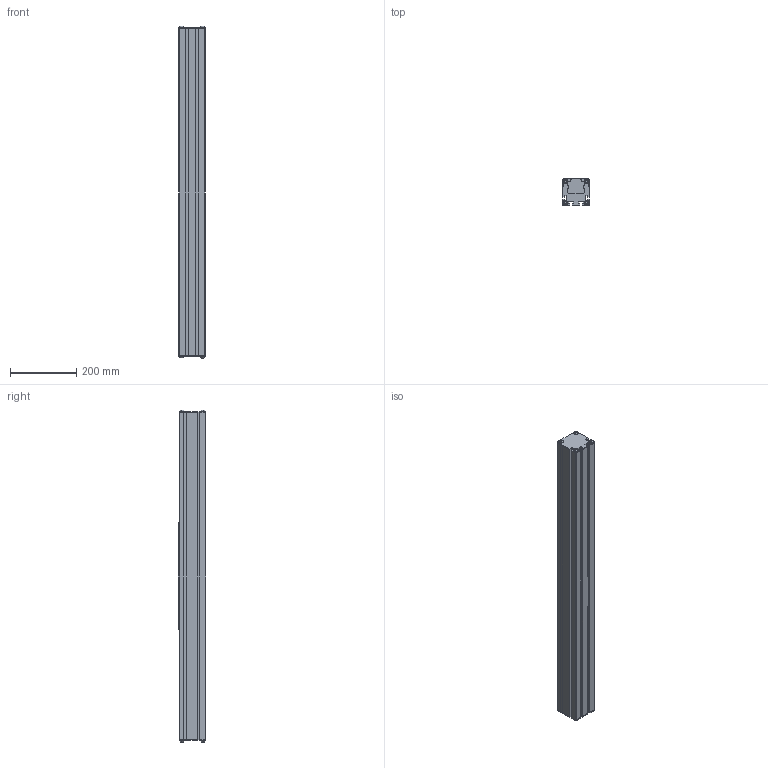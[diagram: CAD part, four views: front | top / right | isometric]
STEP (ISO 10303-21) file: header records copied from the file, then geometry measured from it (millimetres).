
FILE_DESCRIPTION (( 'STEP AP214' ), '1' );
FILE_NAME ('LLR80.STEP', '2022-06-27T12:49:09', ( '' ), ( '' ), 'SwSTEP 2.0', 'SolidWorks 2020', '' );
FILE_SCHEMA (( 'AUTOMOTIVE_DESIGN' ));
Length unit declared in the file: millimetre
Products named in the file (4): LLR80; profile^LLR80; carriage^LLR80_carriage version 0; end plate^LLR80
Assembly tree (4 placements, depth 2):
  LLR80
    profile^LLR80
    carriage^LLR80_carriage version 0
    end plate^LLR80  x2
Bounding box: 80 x 83 x 999.4 mm (x, y, z)
Volume: 4320107.3 mm3; surface area: 694199.9 mm2
Topology: 4 solids, 4 shells, 393 faces, 989 edges, 654 vertices
Faces by surface type: plane 280, cylinder 93, bspline 16, cone 4
Entity records: 10158 total; most frequent: CARTESIAN_POINT 2565, ORIENTED_EDGE 1418, DIRECTION 1395, EDGE_CURVE 709, LINE 539, VECTOR 539, VERTEX_POINT 470, AXIS2_PLACEMENT_3D 428
